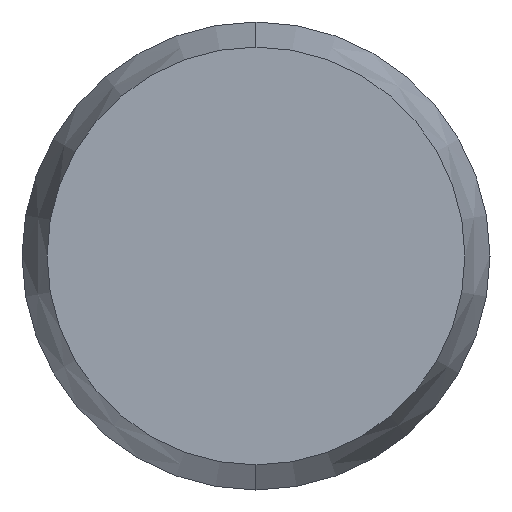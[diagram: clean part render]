
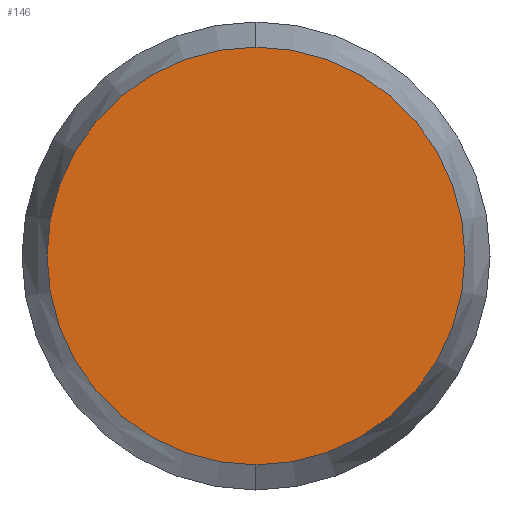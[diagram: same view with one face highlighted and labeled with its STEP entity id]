
A CAD part, left-side view. The second image highlights one B-rep face of the part: STEP entity #146.
In plain terms, the highlighted planar face has unit normal (-1, 0, 0).
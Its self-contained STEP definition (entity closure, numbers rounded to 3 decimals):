
#7 = ORIENTED_EDGE ( 'NONE', *, *, #203, .T. ) ;
#22 = AXIS2_PLACEMENT_3D ( 'NONE', #270, #82, #226 ) ;
#28 = VERTEX_POINT ( 'NONE', #113 ) ;
#37 = DIRECTION ( 'NONE',  ( -1., 0., 0. ) ) ;
#42 = AXIS2_PLACEMENT_3D ( 'NONE', #80, #37, #189 ) ;
#55 = CIRCLE ( 'NONE', #42, 6.696 ) ;
#56 = VERTEX_POINT ( 'NONE', #254 ) ;
#78 = FACE_OUTER_BOUND ( 'NONE', #118, .T. ) ;
#80 = CARTESIAN_POINT ( 'NONE',  ( 0., 0., 0. ) ) ;
#82 = DIRECTION ( 'NONE',  ( 1., 0., 0. ) ) ;
#93 = ORIENTED_EDGE ( 'NONE', *, *, #154, .T. ) ;
#104 = CARTESIAN_POINT ( 'NONE',  ( 0., 0., 0. ) ) ;
#113 = CARTESIAN_POINT ( 'NONE',  ( 0., 0., 6.696 ) ) ;
#118 = EDGE_LOOP ( 'NONE', ( #7, #93 ) ) ;
#122 = AXIS2_PLACEMENT_3D ( 'NONE', #104, #149, #235 ) ;
#146 = ADVANCED_FACE ( 'NONE', ( #78 ), #165, .F. ) ;
#149 = DIRECTION ( 'NONE',  ( -1., 0., 0. ) ) ;
#153 = CIRCLE ( 'NONE', #122, 6.696 ) ;
#154 = EDGE_CURVE ( 'NONE', #28, #56, #55, .T. ) ;
#165 = PLANE ( 'NONE',  #22 ) ;
#189 = DIRECTION ( 'NONE',  ( 0., 0., 1. ) ) ;
#203 = EDGE_CURVE ( 'NONE', #56, #28, #153, .T. ) ;
#226 = DIRECTION ( 'NONE',  ( 0., 0., -1. ) ) ;
#235 = DIRECTION ( 'NONE',  ( 0., 0., 1. ) ) ;
#254 = CARTESIAN_POINT ( 'NONE',  ( 0., 0., -6.696 ) ) ;
#270 = CARTESIAN_POINT ( 'NONE',  ( 0., 6.696, 0. ) ) ;
